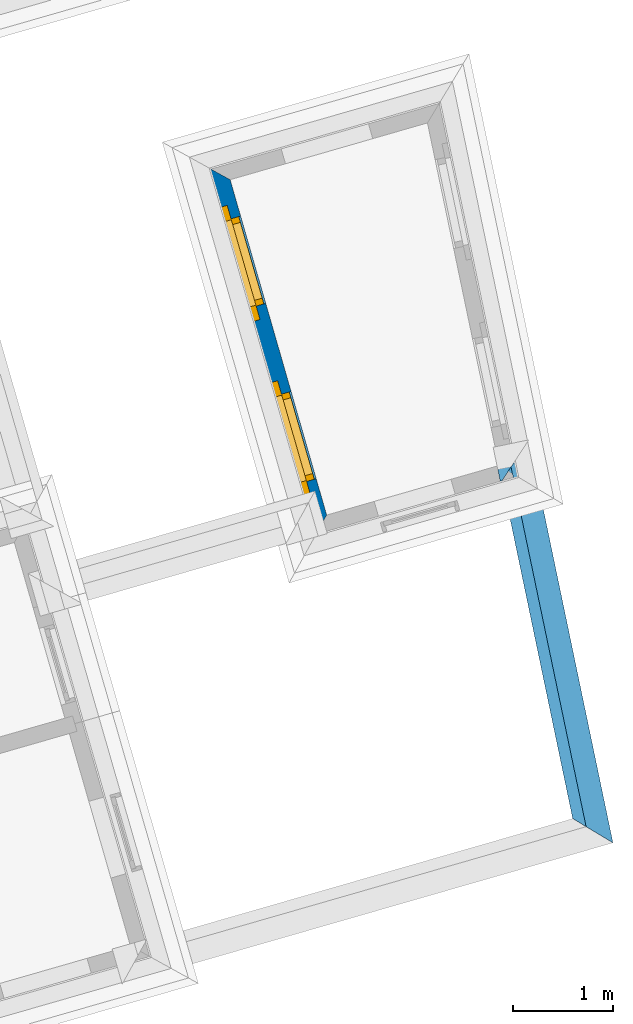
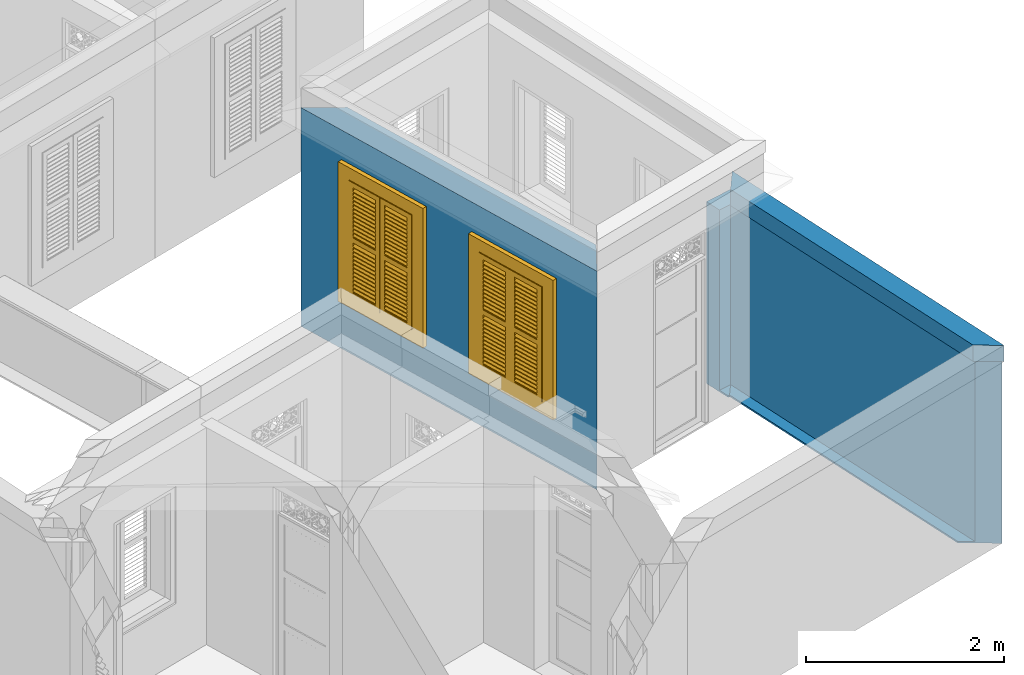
# One storey, part 12 of 22: 4 walls, 2 windows, 2 openings.
"""IFC4 building model written with IfcOpenShell, lengths in metres."""

from ifc_helpers import new_model, si_unit, frame, origin, origin_with_axes, place, context, subcontext, project, spatial, polyline, outline, extrude, clip, halfspace, faceted_brep, source, transform, mapped, material, layer, layer_set, layer_usage, material_profile, profile_set, profile_usage, type_object, type_shapes, element, fill, save


model = new_model("IFC4")

# Units and contexts
model_context = context("Model", 3, world=origin_with_axes())
body_context = subcontext(model_context, "Body", "Model", "MODEL_VIEW")
ifc_project = project(units=[si_unit("PLANEANGLEUNIT", "RADIAN"), si_unit("MASSUNIT", "GRAM", prefix="KILO"), si_unit("FORCEUNIT", "NEWTON", prefix="KILO"), si_unit("LENGTHUNIT", "METRE"), si_unit("AREAUNIT", "SQUARE_METRE"), si_unit("VOLUMEUNIT", "CUBIC_METRE")], contexts=[model_context, model_context])

# Site, building, storey
site_placement = place(None, origin_with_axes())
site = spatial("IfcSite", under=ifc_project, at=site_placement, Name="Site plot-9", CompositionType="ELEMENT")
building_placement = place(None, origin_with_axes())
building = spatial("IfcBuilding", under=site, at=building_placement, Name="Building plot-9", CompositionType="ELEMENT")
storey_placement = place(None, frame((0.0, 0.0, 2.85), z_axis=(0.0, 0.0, 1.0), x_axis=(1.0, 0.0, 0.0)))
storey = spatial("IfcBuildingStorey", under=building, at=storey_placement, Name="plot-9 1", CompositionType="ELEMENT", Elevation=2.85)

# Wall, openings, windows
ifc_material = material(Name="Masonry")
ifc_layer = layer(ifc_material, 0.33, ventilated=False)
ifc_layer_set = layer_set([ifc_layer], Name="exterior_0.08_0.25")
ifc_layer_usage = layer_usage(ifc_layer_set, "AXIS2", "POSITIVE", -0.25)
wall_type_1 = type_object("IfcWallType", Name="exterior_0.08_0.25", PredefinedType="SOLIDWALL", material=ifc_layer_set)
wall_1_placement = place(storey_placement, frame((-15.293038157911, 2.18965634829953, 0.0), z_axis=(0.0, 0.0, 1.0), x_axis=(0.276523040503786, -0.96100728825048, 0.0)))
wall_1 = element("IfcWall", 1, at=wall_1_placement, inside=storey, type_object=wall_type_1, material=ifc_layer_usage, Name="exterior", context=body_context, shape_type="SweptSolid", body=[
    extrude(outline(polyline([(0.0800000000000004, 0.0800000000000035), (-0.250000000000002, -0.25), (3.90707004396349, -0.25), (3.57707004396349, 0.0800000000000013), (0.0800000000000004, 0.0800000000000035)])), origin_with_axes(), (0.0, 0.0, 1.0), 2.7),
])
opening_1_placement = place(wall_1_placement, frame((0.459267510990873, 0.0, 0.75)))
opening_1 = element("IfcOpeningElement", 2, at=opening_1_placement, cuts=wall_1, Name="My Opening", ObjectType="Opening", context=body_context, shape_type="SweptSolid", body=[
    extrude(outline(polyline([(0.0, -0.27), (0.91, -0.269999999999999), (0.91, 1.1), (-1.11022302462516e-16, 1.1), (0.0, -0.27)])), origin_with_axes(), (0.0, 0.0, 1.0), 1.445),
])
opening_2_placement = place(wall_1_placement, frame((2.28780253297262, 0.0, 0.75)))
opening_2 = element("IfcOpeningElement", 3, at=opening_2_placement, cuts=wall_1, Name="My Opening", ObjectType="Opening", context=body_context, shape_type="SweptSolid", body=[
    extrude(outline(polyline([(0.0, -0.269999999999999), (0.91, -0.269999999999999), (0.91, 1.1), (0.0, 1.1), (0.0, -0.269999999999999)])), origin_with_axes(), (0.0, 0.0, 1.0), 1.445),
])
window_type = type_object("IfcWindowType", Name="shuttered_shorter", PartitioningType="DOUBLE_PANEL_HORIZONTAL", PredefinedType="NOTDEFINED")
shared_shape = source(origin(), body_context, "Body", "Brep", [
    faceted_brep([(0.393, 0.0, 0.622), (0.074, 0.0, 0.622), (0.074, 0.0, 0.632), (0.393, 0.0, 0.632), (0.074, -0.04, 0.592), (0.393, -0.04, 0.592), (0.393, -0.04, 0.582), (0.074, -0.04, 0.582), (0.517, 0.0, 0.682), (0.836, 0.0, 0.682), (0.836, 0.0, 0.672), (0.517, 0.0, 0.672), (0.517, -0.04, 0.642), (0.836, -0.04, 0.642), (0.836, -0.04, 0.632), (0.517, -0.04, 0.632), (0.517, 0.0, 0.632), (0.836, 0.0, 0.632), (0.836, 0.0, 0.622), (0.517, 0.0, 0.622), (0.517, -0.04, 0.592), (0.836, -0.04, 0.592), (0.836, -0.04, 0.582), (0.517, -0.04, 0.582), (0.517, 0.0, 0.232), (0.836, 0.0, 0.232), (0.836, 0.0, 0.222), (0.517, 0.0, 0.222), (0.517, -0.04, 0.192), (0.836, -0.04, 0.192), (0.836, -0.04, 0.182), (0.517, -0.04, 0.182), (0.517, 0.0, 0.532), (0.836, 0.0, 0.532), (0.836, 0.0, 0.522), (0.517, 0.0, 0.522), (0.517, -0.04, 0.492), (0.836, -0.04, 0.492), (0.836, -0.04, 0.482), (0.517, -0.04, 0.482), (0.517, 0.0, 0.482), (0.836, 0.0, 0.482), (0.836, 0.0, 0.472), (0.517, 0.0, 0.472), (0.517, -0.04, 0.442), (0.836, -0.04, 0.442), (0.836, -0.04, 0.432), (0.517, -0.04, 0.432), (0.517, 0.0, 0.582), (0.836, 0.0, 0.582), (0.836, 0.0, 0.572), (0.517, 0.0, 0.572), (0.517, -0.04, 0.542), (0.836, -0.04, 0.542), (0.836, -0.04, 0.532), (0.517, -0.04, 0.532), (0.517, 0.0, 0.182), (0.836, 0.0, 0.182), (0.836, 0.0, 0.172), (0.517, 0.0, 0.172), (0.517, -0.04, 0.142), (0.836, -0.04, 0.142), (0.836, -0.04, 0.132), (0.517, -0.04, 0.132), (0.517, 0.0, 0.382), (0.836, 0.0, 0.382), (0.836, 0.0, 0.372), (0.517, 0.0, 0.372), (0.517, -0.04, 0.342), (0.836, -0.04, 0.342), (0.836, -0.04, 0.332), (0.517, -0.04, 0.332), (0.517, 0.0, 0.432), (0.836, 0.0, 0.432), (0.836, 0.0, 0.422), (0.517, 0.0, 0.422), (0.517, -0.04, 0.392), (0.836, -0.04, 0.392), (0.836, -0.04, 0.382), (0.517, -0.04, 0.382), (0.517, 0.0, 0.132), (0.836, 0.0, 0.132), (0.836, 0.0, 0.122), (0.517, 0.0, 0.122), (0.517, -0.04, 0.092), (0.836, -0.04, 0.092), (0.836, -0.04, 0.082), (0.517, -0.04, 0.082), (0.517, 0.0, 0.282), (0.836, 0.0, 0.282), (0.836, 0.0, 0.272), (0.517, 0.0, 0.272), (0.517, -0.04, 0.242), (0.836, -0.04, 0.242), (0.836, -0.04, 0.232), (0.517, -0.04, 0.232), (0.517, 0.0, 0.332), (0.836, 0.0, 0.332), (0.836, 0.0, 0.322), (0.517, 0.0, 0.322), (0.517, -0.04, 0.292), (0.836, -0.04, 0.292), (0.836, -0.04, 0.282), (0.517, -0.04, 0.282), (0.517, 0.0, 1.362667), (0.836, 0.0, 1.362667), (0.836, 0.0, 1.352667), (0.517, 0.0, 1.352667), (0.517, -0.04, 1.322667), (0.836, -0.04, 1.322667), (0.836, -0.04, 1.312667), (0.517, -0.04, 1.312667), (0.517, 0.0, 1.312667), (0.836, 0.0, 1.312667), (0.836, 0.0, 1.302667), (0.517, 0.0, 1.302667), (0.517, -0.04, 1.272667), (0.836, -0.04, 1.272667), (0.836, -0.04, 1.262667), (0.517, -0.04, 1.262667), (0.517, 0.0, 0.912667), (0.836, 0.0, 0.912667), (0.836, 0.0, 0.902667), (0.517, 0.0, 0.902667), (0.517, -0.04, 0.872667), (0.836, -0.04, 0.872667), (0.836, -0.04, 0.862667), (0.517, -0.04, 0.862667), (0.517, 0.0, 1.212667), (0.836, 0.0, 1.212667), (0.836, 0.0, 1.202667), (0.517, 0.0, 1.202667), (0.517, -0.04, 1.172667), (0.836, -0.04, 1.172667), (0.836, -0.04, 1.162667), (0.517, -0.04, 1.162667), (0.517, 0.0, 1.162667), (0.836, 0.0, 1.162667), (0.836, 0.0, 1.152667), (0.517, 0.0, 1.152667), (0.517, -0.04, 1.122667), (0.836, -0.04, 1.122667), (0.836, -0.04, 1.112667), (0.517, -0.04, 1.112667), (0.517, 0.0, 1.262667), (0.836, 0.0, 1.262667), (0.836, 0.0, 1.252667), (0.517, 0.0, 1.252667), (0.517, -0.04, 1.222667), (0.836, -0.04, 1.222667), (0.836, -0.04, 1.212667), (0.517, -0.04, 1.212667), (0.517, 0.0, 0.862667), (0.836, 0.0, 0.862667), (0.836, 0.0, 0.852667), (0.517, 0.0, 0.852667), (0.517, -0.04, 0.822667), (0.836, -0.04, 0.822667), (0.836, -0.04, 0.812667), (0.517, -0.04, 0.812667), (0.517, 0.0, 1.062667), (0.836, 0.0, 1.062667), (0.836, 0.0, 1.052667), (0.517, 0.0, 1.052667), (0.517, -0.04, 1.022667), (0.836, -0.04, 1.022667), (0.836, -0.04, 1.012667), (0.517, -0.04, 1.012667), (0.517, 0.0, 1.112667), (0.836, 0.0, 1.112667), (0.836, 0.0, 1.102667), (0.517, 0.0, 1.102667), (0.517, -0.04, 1.072667), (0.836, -0.04, 1.072667), (0.836, -0.04, 1.062667), (0.517, -0.04, 1.062667), (0.517, 0.0, 0.812667), (0.836, 0.0, 0.812667), (0.836, 0.0, 0.802667), (0.517, 0.0, 0.802667), (0.517, -0.04, 0.772667), (0.836, -0.04, 0.772667), (0.836, -0.04, 0.762667), (0.517, -0.04, 0.762667), (0.517, 0.0, 0.962667), (0.836, 0.0, 0.962667), (0.836, 0.0, 0.952667), (0.517, 0.0, 0.952667), (0.517, -0.04, 0.922667), (0.836, -0.04, 0.922667), (0.836, -0.04, 0.912667), (0.517, -0.04, 0.912667), (0.517, 0.0, 1.012667), (0.836, 0.0, 1.012667), (0.836, 0.0, 1.002667), (0.517, 0.0, 1.002667), (0.517, -0.04, 0.972667), (0.836, -0.04, 0.972667), (0.836, -0.04, 0.962667), (0.517, -0.04, 0.962667), (0.074, 0.0, 0.682), (0.393, 0.0, 0.682), (0.393, 0.0, 0.672), (0.074, 0.0, 0.672), (0.074, -0.04, 0.642), (0.393, -0.04, 0.642), (0.393, -0.04, 0.632), (0.074, -0.04, 0.632), (0.074, 0.0, 0.232), (0.393, 0.0, 0.232), (0.393, 0.0, 0.222), (0.074, 0.0, 0.222), (0.074, -0.04, 0.192), (0.393, -0.04, 0.192), (0.393, -0.04, 0.182), (0.074, -0.04, 0.182), (0.074, 0.0, 0.532), (0.393, 0.0, 0.532), (0.393, 0.0, 0.522), (0.074, 0.0, 0.522), (0.074, -0.04, 0.492), (0.393, -0.04, 0.492), (0.393, -0.04, 0.482), (0.074, -0.04, 0.482), (0.074, 0.0, 0.482), (0.393, 0.0, 0.482), (0.393, 0.0, 0.472), (0.074, 0.0, 0.472), (0.074, -0.04, 0.442), (0.393, -0.04, 0.442), (0.393, -0.04, 0.432), (0.074, -0.04, 0.432), (0.074, 0.0, 0.582), (0.393, 0.0, 0.582), (0.393, 0.0, 0.572), (0.074, 0.0, 0.572), (0.074, -0.04, 0.542), (0.393, -0.04, 0.542), (0.393, -0.04, 0.532), (0.074, -0.04, 0.532), (0.074, 0.0, 0.182), (0.393, 0.0, 0.182), (0.393, 0.0, 0.172), (0.074, 0.0, 0.172), (0.074, -0.04, 0.142), (0.393, -0.04, 0.142), (0.393, -0.04, 0.132), (0.074, -0.04, 0.132), (0.074, 0.0, 0.382), (0.393, 0.0, 0.382), (0.393, 0.0, 0.372), (0.074, 0.0, 0.372), (0.074, -0.04, 0.342), (0.393, -0.04, 0.342), (0.393, -0.04, 0.332), (0.074, -0.04, 0.332), (0.074, 0.0, 0.432), (0.393, 0.0, 0.432), (0.393, 0.0, 0.422), (0.074, 0.0, 0.422), (0.074, -0.04, 0.392), (0.393, -0.04, 0.392), (0.393, -0.04, 0.382), (0.074, -0.04, 0.382), (0.074, 0.0, 0.132), (0.393, 0.0, 0.132), (0.393, 0.0, 0.122), (0.074, 0.0, 0.122), (0.074, -0.04, 0.092), (0.393, -0.04, 0.092), (0.393, -0.04, 0.082), (0.074, -0.04, 0.082), (0.074, 0.0, 0.282), (0.393, 0.0, 0.282), (0.393, 0.0, 0.272), (0.074, 0.0, 0.272), (0.074, -0.04, 0.242), (0.393, -0.04, 0.242), (0.393, -0.04, 0.232), (0.074, -0.04, 0.232), (0.074, 0.0, 0.332), (0.393, 0.0, 0.332), (0.393, 0.0, 0.322), (0.074, 0.0, 0.322), (0.074, -0.04, 0.292), (0.393, -0.04, 0.292), (0.393, -0.04, 0.282), (0.074, -0.04, 0.282), (0.074, 0.0, 1.362667), (0.393, 0.0, 1.362667), (0.393, 0.0, 1.352667), (0.074, 0.0, 1.352667), (0.074, -0.04, 1.322667), (0.393, -0.04, 1.322667), (0.393, -0.04, 1.312667), (0.074, -0.04, 1.312667), (0.074, 0.0, 1.312667), (0.393, 0.0, 1.312667), (0.393, 0.0, 1.302667), (0.074, 0.0, 1.302667), (0.074, -0.04, 1.272667), (0.393, -0.04, 1.272667), (0.393, -0.04, 1.262667), (0.074, -0.04, 1.262667), (0.074, 0.0, 0.912667), (0.393, 0.0, 0.912667), (0.393, 0.0, 0.902667), (0.074, 0.0, 0.902667), (0.074, -0.04, 0.872667), (0.393, -0.04, 0.872667), (0.393, -0.04, 0.862667), (0.074, -0.04, 0.862667), (0.074, 0.0, 1.212667), (0.393, 0.0, 1.212667), (0.393, 0.0, 1.202667), (0.074, 0.0, 1.202667), (0.074, -0.04, 1.172667), (0.393, -0.04, 1.172667), (0.393, -0.04, 1.162667), (0.074, -0.04, 1.162667), (0.074, 0.0, 1.162667), (0.393, 0.0, 1.162667), (0.393, 0.0, 1.152667), (0.074, 0.0, 1.152667), (0.074, -0.04, 1.122667), (0.393, -0.04, 1.122667), (0.393, -0.04, 1.112667), (0.074, -0.04, 1.112667), (0.074, 0.0, 1.262667), (0.393, 0.0, 1.262667), (0.393, 0.0, 1.252667), (0.074, 0.0, 1.252667), (0.074, -0.04, 1.222667), (0.393, -0.04, 1.222667), (0.393, -0.04, 1.212667), (0.074, -0.04, 1.212667), (0.074, 0.0, 0.862667), (0.393, 0.0, 0.862667), (0.393, 0.0, 0.852667), (0.074, 0.0, 0.852667), (0.074, -0.04, 0.822667), (0.393, -0.04, 0.822667), (0.393, -0.04, 0.812667), (0.074, -0.04, 0.812667), (0.074, 0.0, 1.062667), (0.393, 0.0, 1.062667), (0.393, 0.0, 1.052667), (0.074, 0.0, 1.052667), (0.074, -0.04, 1.022667), (0.393, -0.04, 1.022667), (0.393, -0.04, 1.012667), (0.074, -0.04, 1.012667), (0.074, 0.0, 1.112667), (0.393, 0.0, 1.112667), (0.393, 0.0, 1.102667), (0.074, 0.0, 1.102667), (0.074, -0.04, 1.072667), (0.393, -0.04, 1.072667), (0.393, -0.04, 1.062667), (0.074, -0.04, 1.062667), (0.074, 0.0, 0.812667), (0.393, 0.0, 0.812667), (0.393, 0.0, 0.802667), (0.074, 0.0, 0.802667), (0.074, -0.04, 0.772667), (0.393, -0.04, 0.772667), (0.393, -0.04, 0.762667), (0.074, -0.04, 0.762667), (0.074, 0.0, 0.962667), (0.393, 0.0, 0.962667), (0.393, 0.0, 0.952667), (0.074, 0.0, 0.952667), (0.074, -0.04, 0.922667), (0.393, -0.04, 0.922667), (0.393, -0.04, 0.912667), (0.074, -0.04, 0.912667), (0.074, 0.0, 1.012667), (0.393, 0.0, 1.012667), (0.393, 0.0, 1.002667), (0.074, 0.0, 1.002667), (0.074, -0.04, 0.972667), (0.393, -0.04, 0.972667), (0.393, -0.04, 0.962667), (0.074, -0.04, 0.962667), (0.517, -0.04, 0.072), (0.457, -0.04, 0.012), (0.896, -0.04, 0.012), (0.836, -0.04, 0.072), (0.457, -0.04, 0.692667), (0.517, -0.04, 0.692667), (0.457, 0.0, 0.012), (0.896, 0.0, 0.012), (0.836, -0.04, 0.692667), (0.896, -0.04, 0.692667), (0.836, 0.0, 0.072), (0.517, 0.0, 0.072), (0.457, 0.0, 0.692667), (0.517, 0.0, 0.692667), (0.517, -0.04, 0.752666), (0.457, -0.04, 0.752666), (0.896, 0.0, 0.692667), (0.836, 0.0, 0.692667), (0.836, -0.04, 0.752666), (0.896, -0.04, 0.752666), (0.457, 0.0, 0.752666), (0.457, -0.04, 1.433333), (0.517, -0.04, 1.373333), (0.896, 0.0, 0.752666), (0.836, -0.04, 1.373333), (0.896, -0.04, 1.433333), (0.457, 0.0, 1.433333), (0.517, 0.0, 0.752666), (0.836, 0.0, 0.752666), (0.517, 0.0, 1.373333), (0.896, 0.0, 1.433333), (0.836, 0.0, 1.373333), (0.074, -0.04, 0.072), (0.014, -0.04, 0.012), (0.453, -0.04, 0.012), (0.393, -0.04, 0.072), (0.014, -0.04, 0.692667), (0.074, -0.04, 0.692667), (0.014, 0.0, 0.012), (0.453, 0.0, 0.012), (0.393, -0.04, 0.692667), (0.453, -0.04, 0.692667), (0.393, 0.0, 0.072), (0.074, 0.0, 0.072), (0.014, 0.0, 0.692667), (0.074, 0.0, 0.692667), (0.074, -0.04, 0.752666), (0.014, -0.04, 0.752666), (0.453, 0.0, 0.692667), (0.393, 0.0, 0.692667), (0.393, -0.04, 0.752666), (0.453, -0.04, 0.752666), (0.014, 0.0, 0.752666), (0.014, -0.04, 1.433333), (0.074, -0.04, 1.373333), (0.453, 0.0, 0.752666), (0.393, -0.04, 1.373333), (0.453, -0.04, 1.433333), (0.014, 0.0, 1.433333), (0.074, 0.0, 0.752666), (0.393, 0.0, 0.752666), (0.074, 0.0, 1.373333), (0.453, 0.0, 1.433333), (0.393, 0.0, 1.373333), (0.0, 0.33, 1.445), (0.91, 0.33, 1.445), (0.85, 0.33, 1.385), (0.06, 0.33, 1.385), (0.91, 0.25, 1.445), (0.0, 0.25, 1.445), (0.91, 0.25, 1.445), (0.85, 0.33, 0.06), (0.91, 0.33, 0.0), (0.85, 0.25, 1.385), (0.06, 0.25, 1.385), (0.0, 0.33, 0.0), (0.06, 0.33, 0.06), (0.0, 0.25, 0.0), (0.91, 0.25, 0.0), (0.85, 0.25, 0.06), (0.06, 0.25, 0.06), (1.05, 0.25, 1.585), (-0.14, 0.25, 1.585), (-0.14, -0.03, 1.585), (1.05, -0.03, 1.585), (0.9, -0.03, 1.435), (0.01, -0.03, 1.435), (0.01, 0.25, 1.435), (0.9, 0.25, 1.435), (0.9, 0.25, 0.01), (0.9, -0.03, 0.01), (1.05, -0.03, -0.14), (1.05, 0.25, -0.14), (0.01, -0.03, 0.01), (0.01, 0.25, 0.01), (-0.14, -0.03, -0.14), (-0.14, 0.25, -0.14)], [[[0, 1, 2, 3]], [[4, 5, 3, 2]], [[5, 6, 0, 3]], [[1, 0, 6, 7]], [[2, 1, 7, 4]], [[5, 4, 7, 6]], [[8, 9, 10, 11]], [[12, 13, 9, 8]], [[13, 14, 10, 9]], [[14, 15, 11, 10]], [[15, 12, 8, 11]], [[13, 12, 15, 14]], [[16, 17, 18, 19]], [[20, 21, 17, 16]], [[21, 22, 18, 17]], [[22, 23, 19, 18]], [[23, 20, 16, 19]], [[21, 20, 23, 22]], [[24, 25, 26, 27]], [[28, 29, 25, 24]], [[29, 30, 26, 25]], [[30, 31, 27, 26]], [[31, 28, 24, 27]], [[29, 28, 31, 30]], [[32, 33, 34, 35]], [[36, 37, 33, 32]], [[37, 38, 34, 33]], [[38, 39, 35, 34]], [[39, 36, 32, 35]], [[37, 36, 39, 38]], [[40, 41, 42, 43]], [[44, 45, 41, 40]], [[45, 46, 42, 41]], [[46, 47, 43, 42]], [[47, 44, 40, 43]], [[45, 44, 47, 46]], [[48, 49, 50, 51]], [[52, 53, 49, 48]], [[53, 54, 50, 49]], [[54, 55, 51, 50]], [[55, 52, 48, 51]], [[53, 52, 55, 54]], [[56, 57, 58, 59]], [[60, 61, 57, 56]], [[61, 62, 58, 57]], [[62, 63, 59, 58]], [[63, 60, 56, 59]], [[61, 60, 63, 62]], [[64, 65, 66, 67]], [[68, 69, 65, 64]], [[69, 70, 66, 65]], [[70, 71, 67, 66]], [[71, 68, 64, 67]], [[69, 68, 71, 70]], [[72, 73, 74, 75]], [[76, 77, 73, 72]], [[77, 78, 74, 73]], [[78, 79, 75, 74]], [[79, 76, 72, 75]], [[77, 76, 79, 78]], [[80, 81, 82, 83]], [[84, 85, 81, 80]], [[85, 86, 82, 81]], [[86, 87, 83, 82]], [[87, 84, 80, 83]], [[85, 84, 87, 86]], [[88, 89, 90, 91]], [[92, 93, 89, 88]], [[93, 94, 90, 89]], [[94, 95, 91, 90]], [[95, 92, 88, 91]], [[93, 92, 95, 94]], [[96, 97, 98, 99]], [[100, 101, 97, 96]], [[101, 102, 98, 97]], [[102, 103, 99, 98]], [[103, 100, 96, 99]], [[101, 100, 103, 102]], [[104, 105, 106, 107]], [[108, 109, 105, 104]], [[109, 110, 106, 105]], [[110, 111, 107, 106]], [[111, 108, 104, 107]], [[109, 108, 111, 110]], [[112, 113, 114, 115]], [[116, 117, 113, 112]], [[117, 118, 114, 113]], [[118, 119, 115, 114]], [[119, 116, 112, 115]], [[117, 116, 119, 118]], [[120, 121, 122, 123]], [[124, 125, 121, 120]], [[125, 126, 122, 121]], [[126, 127, 123, 122]], [[127, 124, 120, 123]], [[125, 124, 127, 126]], [[128, 129, 130, 131]], [[132, 133, 129, 128]], [[133, 134, 130, 129]], [[134, 135, 131, 130]], [[135, 132, 128, 131]], [[133, 132, 135, 134]], [[136, 137, 138, 139]], [[140, 141, 137, 136]], [[141, 142, 138, 137]], [[142, 143, 139, 138]], [[139, 143, 140, 136]], [[141, 140, 143, 142]], [[144, 145, 146, 147]], [[148, 149, 145, 144]], [[149, 150, 146, 145]], [[150, 151, 147, 146]], [[151, 148, 144, 147]], [[149, 148, 151, 150]], [[152, 153, 154, 155]], [[156, 157, 153, 152]], [[157, 158, 154, 153]], [[158, 159, 155, 154]], [[159, 156, 152, 155]], [[157, 156, 159, 158]], [[160, 161, 162, 163]], [[164, 165, 161, 160]], [[165, 166, 162, 161]], [[166, 167, 163, 162]], [[167, 164, 160, 163]], [[165, 164, 167, 166]], [[168, 169, 170, 171]], [[172, 173, 169, 168]], [[173, 174, 170, 169]], [[174, 175, 171, 170]], [[175, 172, 168, 171]], [[173, 172, 175, 174]], [[176, 177, 178, 179]], [[180, 181, 177, 176]], [[181, 182, 178, 177]], [[182, 183, 179, 178]], [[183, 180, 176, 179]], [[181, 180, 183, 182]], [[184, 185, 186, 187]], [[188, 189, 185, 184]], [[189, 190, 186, 185]], [[190, 191, 187, 186]], [[191, 188, 184, 187]], [[189, 188, 191, 190]], [[192, 193, 194, 195]], [[196, 197, 193, 192]], [[197, 198, 194, 193]], [[198, 199, 195, 194]], [[199, 196, 192, 195]], [[197, 196, 199, 198]], [[200, 201, 202, 203]], [[204, 205, 201, 200]], [[205, 206, 202, 201]], [[206, 207, 203, 202]], [[207, 204, 200, 203]], [[205, 204, 207, 206]], [[208, 209, 210, 211]], [[212, 213, 209, 208]], [[213, 214, 210, 209]], [[214, 215, 211, 210]], [[215, 212, 208, 211]], [[213, 212, 215, 214]], [[216, 217, 218, 219]], [[220, 221, 217, 216]], [[221, 222, 218, 217]], [[222, 223, 219, 218]], [[223, 220, 216, 219]], [[221, 220, 223, 222]], [[224, 225, 226, 227]], [[228, 229, 225, 224]], [[229, 230, 226, 225]], [[230, 231, 227, 226]], [[231, 228, 224, 227]], [[229, 228, 231, 230]], [[232, 233, 234, 235]], [[236, 237, 233, 232]], [[237, 238, 234, 233]], [[238, 239, 235, 234]], [[239, 236, 232, 235]], [[237, 236, 239, 238]], [[240, 241, 242, 243]], [[244, 245, 241, 240]], [[245, 246, 242, 241]], [[246, 247, 243, 242]], [[247, 244, 240, 243]], [[245, 244, 247, 246]], [[248, 249, 250, 251]], [[252, 253, 249, 248]], [[253, 254, 250, 249]], [[254, 255, 251, 250]], [[255, 252, 248, 251]], [[253, 252, 255, 254]], [[256, 257, 258, 259]], [[260, 261, 257, 256]], [[261, 262, 258, 257]], [[262, 263, 259, 258]], [[263, 260, 256, 259]], [[261, 260, 263, 262]], [[264, 265, 266, 267]], [[268, 269, 265, 264]], [[269, 270, 266, 265]], [[270, 271, 267, 266]], [[271, 268, 264, 267]], [[269, 268, 271, 270]], [[272, 273, 274, 275]], [[276, 277, 273, 272]], [[277, 278, 274, 273]], [[278, 279, 275, 274]], [[279, 276, 272, 275]], [[277, 276, 279, 278]], [[280, 281, 282, 283]], [[284, 285, 281, 280]], [[285, 286, 282, 281]], [[286, 287, 283, 282]], [[287, 284, 280, 283]], [[285, 284, 287, 286]], [[288, 289, 290, 291]], [[292, 293, 289, 288]], [[293, 294, 290, 289]], [[294, 295, 291, 290]], [[295, 292, 288, 291]], [[293, 292, 295, 294]], [[296, 297, 298, 299]], [[300, 301, 297, 296]], [[301, 302, 298, 297]], [[302, 303, 299, 298]], [[303, 300, 296, 299]], [[301, 300, 303, 302]], [[304, 305, 306, 307]], [[308, 309, 305, 304]], [[309, 310, 306, 305]], [[310, 311, 307, 306]], [[311, 308, 304, 307]], [[309, 308, 311, 310]], [[312, 313, 314, 315]], [[316, 317, 313, 312]], [[317, 318, 314, 313]], [[318, 319, 315, 314]], [[319, 316, 312, 315]], [[317, 316, 319, 318]], [[320, 321, 322, 323]], [[324, 325, 321, 320]], [[325, 326, 322, 321]], [[326, 327, 323, 322]], [[327, 324, 320, 323]], [[325, 324, 327, 326]], [[328, 329, 330, 331]], [[332, 333, 329, 328]], [[333, 334, 330, 329]], [[334, 335, 331, 330]], [[335, 332, 328, 331]], [[333, 332, 335, 334]], [[336, 337, 338, 339]], [[340, 341, 337, 336]], [[341, 342, 338, 337]], [[342, 343, 339, 338]], [[343, 340, 336, 339]], [[341, 340, 343, 342]], [[344, 345, 346, 347]], [[348, 349, 345, 344]], [[349, 350, 346, 345]], [[350, 351, 347, 346]], [[351, 348, 344, 347]], [[349, 348, 351, 350]], [[352, 353, 354, 355]], [[356, 357, 353, 352]], [[357, 358, 354, 353]], [[358, 359, 355, 354]], [[359, 356, 352, 355]], [[357, 356, 359, 358]], [[360, 361, 362, 363]], [[364, 365, 361, 360]], [[365, 366, 362, 361]], [[366, 367, 363, 362]], [[367, 364, 360, 363]], [[365, 364, 367, 366]], [[368, 369, 370, 371]], [[372, 373, 369, 368]], [[373, 374, 370, 369]], [[374, 375, 371, 370]], [[375, 372, 368, 371]], [[373, 372, 375, 374]], [[376, 377, 378, 379]], [[380, 381, 377, 376]], [[381, 382, 378, 377]], [[382, 383, 379, 378]], [[383, 380, 376, 379]], [[381, 380, 383, 382]], [[384, 385, 386, 387]], [[388, 385, 384, 389]], [[390, 391, 386, 385]], [[392, 387, 386, 393]], [[384, 387, 394, 395]], [[390, 385, 388, 396]], [[389, 384, 395, 397]], [[389, 398, 399, 388]], [[390, 395, 394, 391]], [[400, 393, 386, 391]], [[387, 392, 401, 394]], [[402, 392, 393, 403]], [[396, 388, 399, 404]], [[390, 396, 397, 395]], [[392, 389, 397, 401]], [[398, 389, 392, 402]], [[405, 399, 398, 406]], [[394, 401, 400, 391]], [[407, 403, 393, 400]], [[408, 402, 403, 409]], [[404, 399, 405, 410]], [[411, 397, 396, 404]], [[397, 411, 412, 401]], [[398, 402, 412, 411]], [[406, 398, 411, 413]], [[405, 406, 408, 409]], [[401, 412, 407, 400]], [[414, 409, 403, 407]], [[402, 408, 415, 412]], [[405, 409, 414, 410]], [[404, 410, 413, 411]], [[408, 406, 413, 415]], [[412, 415, 414, 407]], [[413, 410, 414, 415]], [[416, 417, 418, 419]], [[420, 417, 416, 421]], [[422, 423, 418, 417]], [[424, 419, 418, 425]], [[416, 419, 426, 427]], [[422, 417, 420, 428]], [[421, 416, 427, 429]], [[421, 430, 431, 420]], [[422, 427, 426, 423]], [[432, 425, 418, 423]], [[419, 424, 433, 426]], [[434, 424, 425, 435]], [[428, 420, 431, 436]], [[422, 428, 429, 427]], [[424, 421, 429, 433]], [[430, 421, 424, 434]], [[437, 431, 430, 438]], [[426, 433, 432, 423]], [[439, 435, 425, 432]], [[440, 434, 435, 441]], [[436, 431, 437, 442]], [[443, 429, 428, 436]], [[429, 443, 444, 433]], [[430, 434, 444, 443]], [[438, 430, 443, 445]], [[437, 438, 440, 441]], [[433, 444, 439, 432]], [[446, 441, 435, 439]], [[434, 440, 447, 444]], [[437, 441, 446, 442]], [[436, 442, 445, 443]], [[440, 438, 445, 447]], [[444, 447, 446, 439]], [[445, 442, 446, 447]], [[448, 449, 450, 451]], [[452, 449, 448]], [[448, 453, 454]], [[448, 454, 452]], [[455, 450, 449, 456]], [[451, 450, 457, 458]], [[459, 448, 451, 460]], [[448, 459, 461, 453]], [[454, 453, 458, 457]], [[462, 452, 454]], [[454, 457, 463]], [[454, 463, 462]], [[456, 449, 452, 462]], [[450, 455, 463, 457]], [[456, 459, 460, 455]], [[460, 451, 458, 464]], [[459, 456, 462, 461]], [[464, 458, 453, 461]], [[461, 462, 463, 464]], [[455, 460, 464, 463]], [[465, 466, 467, 468]], [[469, 470, 471, 472]], [[473, 474, 469, 472]], [[465, 468, 475, 476]], [[470, 477, 478, 471]], [[474, 473, 478, 477]], [[474, 477, 479, 475]], [[470, 467, 479, 477]], [[470, 469, 468, 467]], [[474, 475, 468, 469]], [[471, 478, 480, 466]], [[473, 472, 465, 476]], [[473, 476, 480, 478]], [[466, 465, 472, 471]], [[480, 476, 475, 479]], [[480, 479, 467, 466]]]),
])
type_shapes(window_type, [shared_shape])
window_1_placement = place(storey_placement, frame((-15.4255120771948, 1.67363570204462, 0.75), z_axis=(0.0, 0.0, 1.0), x_axis=(0.251635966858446, -0.874516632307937, 0.0)))
window_1 = element("IfcWindow", 4, at=window_1_placement, inside=storey, type_object=window_type, Name="bedroom outside window", OverallHeight=1.445, OverallWidth=0.91, context=body_context, shape_type="MappedRepresentation", body=[
    mapped(shared_shape, transform((0.0, 0.0, 0.0), scale=1.0)),
])
fill(opening_1, window_1)
window_2_placement = place(storey_placement, frame((-14.9198800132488, -0.0835997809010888, 0.75), z_axis=(0.0, 0.0, 1.0), x_axis=(0.251635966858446, -0.874516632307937, 0.0)))
window_2 = element("IfcWindow", 5, at=window_2_placement, inside=storey, type_object=window_type, Name="bedroom outside window", OverallHeight=1.445, OverallWidth=0.91, context=body_context, shape_type="MappedRepresentation", body=[
    mapped(shared_shape, transform((0.0, 0.0, 0.0), scale=1.0)),
])
fill(opening_2, window_2)

# Walls
ifc_material_profile_1 = material_profile(None, outline(polyline([(0.25, 0.0), (0.25, 2.245), (0.05, 2.245), (0.05, 0.02), (-0.08, 0.02), (-0.08, 0.0), (0.25, 0.0)])))
ifc_profile_set_1 = profile_set([ifc_material_profile_1])
ifc_profile_usage_1 = profile_usage(ifc_profile_set_1)
wall_type_2 = type_object("IfcWallType", Name="parapet street_0", PredefinedType="PARAPET", material=ifc_profile_set_1)
wall_2_placement = place(storey_placement, frame((-12.6113475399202, 0.193539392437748, 0.0), z_axis=(0.20438120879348, -0.97889137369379, 0.0), x_axis=(0.97889137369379, 0.20438120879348, 0.0)))
element("IfcWall", 6, at=wall_2_placement, inside=storey, type_object=wall_type_2, material=ifc_profile_usage_1, Name="parapet street_0", context=body_context, shape_type="Clipping", body=[
    clip(clip(extrude(outline(polyline([(0.25, 0.0), (0.25, 2.245), (0.05, 2.245), (0.05, 0.02), (-0.08, 0.02), (-0.08, 0.0), (0.25, 0.0)])), origin_with_axes(), (0.0, 0.0, 1.0), 5.61435348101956), halfspace(frame((0.0, 0.0, 4.61435348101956), z_axis=(0.680340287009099, 0.0, -0.732896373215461), x_axis=(0.0, 1.0, 0.0)), True)), halfspace(frame((0.0, 0.0, 1.0), z_axis=(-0.70710678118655, 0.0, -0.707106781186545), x_axis=(0.0, 1.0, 0.0)), False)),
])
ifc_profile_usage_2 = profile_usage(ifc_profile_set_1)
wall_3_placement = place(storey_placement, frame((-13.4837468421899, -1.01017131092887, 0.0), z_axis=(0.97889137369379, 0.204381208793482, 0.0), x_axis=(-0.204381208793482, 0.97889137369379, 0.0)))
element("IfcWall", 7, at=wall_3_placement, inside=storey, type_object=wall_type_2, material=ifc_profile_usage_2, Name="parapet street_0", context=body_context, shape_type="Clipping", body=[
    clip(clip(extrude(outline(polyline([(0.25, 0.0), (0.25, 2.245), (0.05, 2.245), (0.05, 0.02), (-0.08, 0.02), (-0.08, 0.0), (0.25, 0.0)])), origin_with_axes(), (0.0, 0.0, 1.0), 2.1), halfspace(frame((0.0, 0.0, 1.1), z_axis=(0.707106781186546, 0.0, -0.707106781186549), x_axis=(0.0, 1.0, 0.0)), True)), halfspace(frame((0.0, 0.0, 1.0), z_axis=(3.82856869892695e-16, 0.0, -1.0), x_axis=(0.0, 1.0, 0.0)), False)),
])
ifc_material_profile_2 = material_profile(None, outline(polyline([(0.265, 2.245), (0.265, 2.445), (0.035, 2.445), (0.035, 2.245), (0.265, 2.245)])))
ifc_profile_set_2 = profile_set([ifc_material_profile_2])
ifc_profile_usage_3 = profile_usage(ifc_profile_set_2)
wall_type_3 = type_object("IfcWallType", Name="parapet street_1", PredefinedType="PARAPET", material=ifc_profile_set_2)
wall_4_placement = place(storey_placement, frame((-12.6113475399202, 0.193539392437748, 0.0), z_axis=(0.20438120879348, -0.97889137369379, 0.0), x_axis=(0.97889137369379, 0.20438120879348, 0.0)))
element("IfcWall", 8, at=wall_4_placement, inside=storey, type_object=wall_type_3, material=ifc_profile_usage_3, Name="parapet street_1", context=body_context, shape_type="Clipping", body=[
    clip(clip(extrude(outline(polyline([(0.265, 2.245), (0.265, 2.445), (0.035, 2.445), (0.035, 2.245), (0.265, 2.245)])), origin_with_axes(), (0.0, 0.0, 1.0), 5.61435348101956), halfspace(frame((0.0, 0.0, 4.61435348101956), z_axis=(0.680340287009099, 0.0, -0.732896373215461), x_axis=(0.0, 1.0, 0.0)), True)), halfspace(frame((0.0, 0.0, 1.0), z_axis=(-0.70710678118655, 0.0, -0.707106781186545), x_axis=(0.0, 1.0, 0.0)), False)),
])

save(model, "model.ifc")
